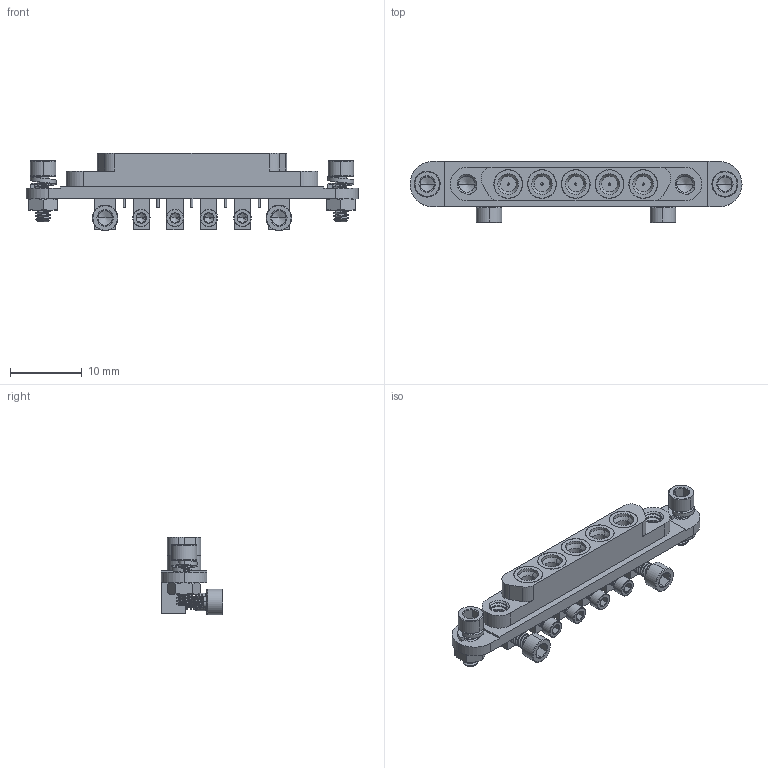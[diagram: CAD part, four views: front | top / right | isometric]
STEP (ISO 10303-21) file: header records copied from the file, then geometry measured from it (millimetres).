
FILE_DESCRIPTION (( 'STEP AP203' ), '1' );
FILE_NAME ('8869000G91P-098.STEP', '2023-11-08T18:19:20', ( '' ), ( '' ), 'SwSTEP 2.0', 'SolidWorks 2022', '' );
FILE_SCHEMA (( 'CONFIG_CONTROL_DESIGN' ));
Length unit declared in the file: inch
Products named in the file (1): 8869000G91P-098
Bounding box: 46.23 x 8.53 x 10.79 mm (x, y, z)
Volume: 1416.4 mm3; surface area: 2596.4 mm2
Topology: 13 solids, 13 shells, 1319 faces, 3284 edges, 2082 vertices
Faces by surface type: plane 438, cylinder 385, bspline 290, cone 196, torus 10
Entity records: 69507 total; most frequent: CARTESIAN_POINT 41680, ORIENTED_EDGE 6528, DIRECTION 4590, EDGE_CURVE 3264, VERTEX_POINT 2082, AXIS2_PLACEMENT_3D 1562, VECTOR 1466, LINE 1466
